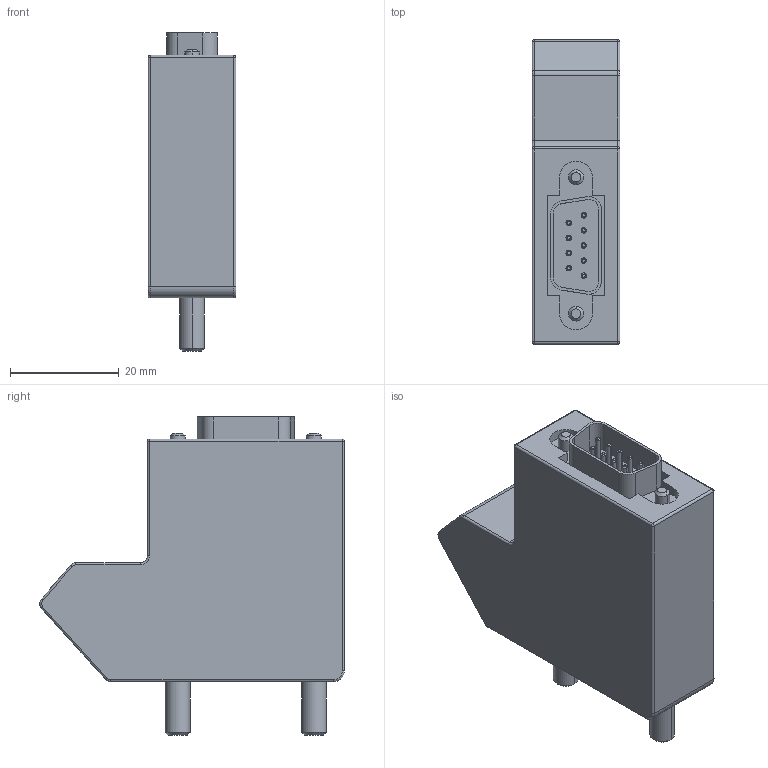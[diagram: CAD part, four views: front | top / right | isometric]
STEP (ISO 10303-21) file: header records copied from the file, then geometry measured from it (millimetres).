
FILE_DESCRIPTION((''),'2;1');
FILE_NAME('CU_CONN_CRIO_DB_9_TB','2007-08-06T',('jpearson'),(''),'PRO/ENGINEER BY PARAMETRIC TECHNOLOGY CORPORATION, 2006080','PRO/ENGINEER BY PARAMETRIC TECHNOLOGY CORPORATION, 2006080','');
FILE_SCHEMA(('CONFIG_CONTROL_DESIGN'));
Length unit declared in the file: inch
Products named in the file (1): CU_CONN_CRIO_DB_9_TB
Bounding box: 16.15 x 55.96 x 58.42 mm (x, y, z)
Volume: 30697.7 mm3; surface area: 8209.6 mm2
Topology: 1 solids, 1 shells, 148 faces, 326 edges, 198 vertices
Faces by surface type: cylinder 59, plane 49, cone 26, torus 10, sphere 4
Entity records: 4106 total; most frequent: DIRECTION 772, CARTESIAN_POINT 684, ORIENTED_EDGE 652, EDGE_CURVE 326, AXIS2_PLACEMENT_3D 300, VERTEX_POINT 198, VECTOR 172, LINE 172
